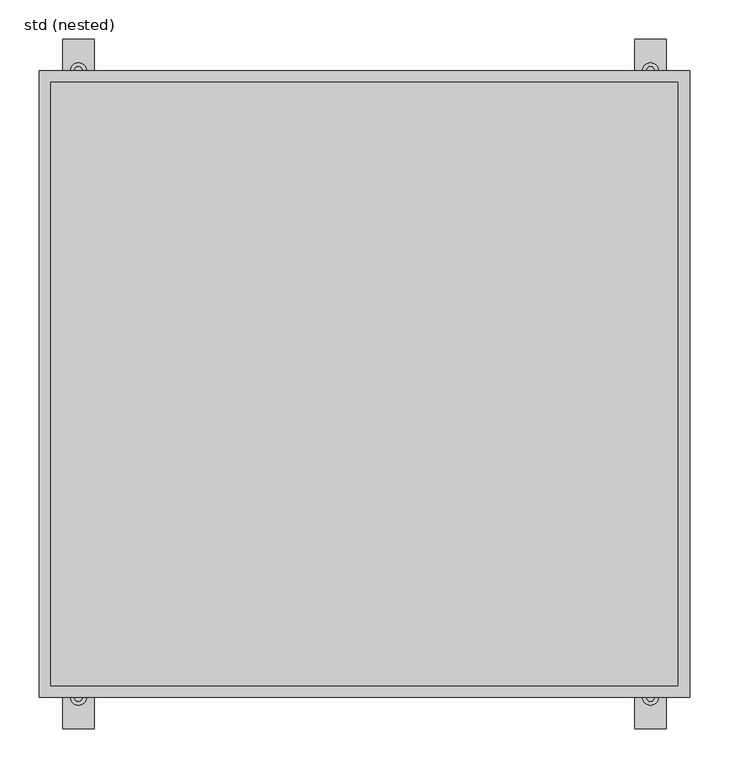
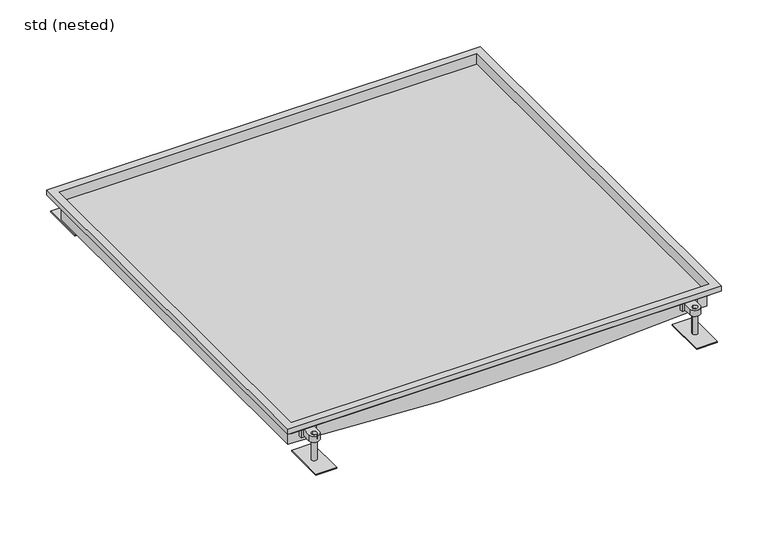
"""IFC4 building model written with IfcOpenShell, lengths in millimetres: sanitary terminal geometry, ZZZ_do not use_PF_ST_UN_custom hygienic box channel_ACO : std (nested)."""

import ifcopenshell
import ifcopenshell.guid

model = None  # the IFC model being written
_history = None  # IfcOwnerHistory: only IFC2X3 demands one
_inside = {}  # id of a spatial element -> (the spatial element, [elements in it])
_under = {}  # id of a project, library or spatial element -> (it, [spatial elements below it])
_declared = {}  # id of a project -> (the project, [libraries it declares])
_typed = {}  # id of a type object -> (the type object, [elements of that type])
_made_of = {}  # id of a material, layer set ... -> (it, [elements and type objects made of it])


def new_model(schema):
    """Start an empty IFC model of exactly this schema.

    Asked for "IFC4X3", IfcOpenShell would pick the latest addendum, in which some entities
    have other attributes; the version numbers below select the first issue.
    IFC2X3 requires an IfcOwnerHistory on every rooted entity: one is made here for all.
    """
    global model, _history
    if schema == "IFC4X3":
        model = ifcopenshell.file(schema_version=(4, 3, 0, 0))
    else:
        model = ifcopenshell.file(schema=schema)
    _inside.clear()
    _under.clear()
    _declared.clear()
    _typed.clear()
    _made_of.clear()
    _history = None
    if model.schema == "IFC2X3":
        org = make("IfcOrganization", Name="unknown")
        user = make(
            "IfcPersonAndOrganization",
            ThePerson=make("IfcPerson", FamilyName="unknown"),
            TheOrganization=org,
        )
        app = make(
            "IfcApplication",
            ApplicationDeveloper=org,
            Version="unknown",
            ApplicationFullName="unknown",
            ApplicationIdentifier="unknown",
        )
        _history = make(
            "IfcOwnerHistory",
            OwningUser=user,
            OwningApplication=app,
            ChangeAction="ADDED",
            CreationDate=0,
        )
    return model


def make(cls, **values):
    """One entity of the class cls with the attributes given. An attribute that is None is left unset."""
    return model.create_entity(
        cls, **{name: value for name, value in values.items() if value is not None}
    )


def rooted(cls, **values):
    """An entity with a GlobalId (a new one), such as an element, a storey or a relation."""
    return make(cls, GlobalId=ifcopenshell.guid.new(), OwnerHistory=_history, **values)


def si_unit(unit_type, name, prefix=None):
    """IfcSIUnit, for example si_unit("LENGTHUNIT", "METRE", prefix="MILLI")."""
    return make("IfcSIUnit", UnitType=unit_type, Prefix=prefix, Name=name)


def assignment(units):
    """IfcUnitAssignment: the units of a project."""
    return None if units is None else make("IfcUnitAssignment", Units=units)


def point(xyz):
    """IfcCartesianPoint."""
    return None if xyz is None else make("IfcCartesianPoint", Coordinates=xyz)


def direction(xyz):
    """IfcDirection."""
    return None if xyz is None else make("IfcDirection", DirectionRatios=xyz)


def frame(location, z_axis=None, x_axis=None):
    """IfcAxis2Placement3D, a coordinate frame: its origin and axes. An axis left out is left unset."""
    return make(
        "IfcAxis2Placement3D",
        Location=point(location),
        Axis=direction(z_axis),
        RefDirection=direction(x_axis),
    )


def frame_2d(location, x_axis=None):
    """IfcAxis2Placement2D, a coordinate frame in the plane: its origin and x axis."""
    return make(
        "IfcAxis2Placement2D", Location=point(location), RefDirection=direction(x_axis)
    )


def origin():
    """The frame at (0, 0, 0) with its axes left unset."""
    return frame((0.0, 0.0, 0.0))


def place(relative_to, where):
    """IfcLocalPlacement: puts the frame where relative to a parent placement (None: the world)."""
    return make(
        "IfcLocalPlacement", PlacementRelTo=relative_to, RelativePlacement=where
    )


def context(
    kind, dimensions, precision=None, world=None, true_north=None, identifier=None
):
    """IfcGeometricRepresentationContext, for example the 3D "Model" context."""
    return make(
        "IfcGeometricRepresentationContext",
        ContextIdentifier=identifier,
        ContextType=kind,
        CoordinateSpaceDimension=dimensions,
        Precision=precision,
        WorldCoordinateSystem=world,
        TrueNorth=true_north,
    )


def project(units=None, contexts=None):
    """IfcProject with its units and contexts."""
    return rooted(
        "IfcProject",
        Name="project",
        RepresentationContexts=contexts,
        UnitsInContext=assignment(units),
    )


def spatial(cls, under=None, at=None, **own):
    """A site, building, storey or space (cls), placed at a placement, below another one or the project."""
    s = rooted(cls, ObjectPlacement=at, **own)
    if under is not None:
        _under.setdefault(under.id(), (under, []))[1].append(s)
    return s


def polyline(points):
    """IfcPolyline through the points."""
    return make("IfcPolyline", Points=[point(p) for p in points])


def circle_curve(where, radius):
    """IfcCircle in the frame where."""
    return make("IfcCircle", Position=where, Radius=radius)


def trimmed(basis, trim1, trim2, sense, master):
    """IfcTrimmedCurve: the piece of a basis curve between two trims."""
    return make(
        "IfcTrimmedCurve",
        BasisCurve=basis,
        Trim1=trim1,
        Trim2=trim2,
        SenseAgreement=sense,
        MasterRepresentation=master,
    )


def segment(curve, same_sense, transition):
    """IfcCompositeCurveSegment."""
    return make(
        "IfcCompositeCurveSegment",
        Transition=transition,
        SameSense=same_sense,
        ParentCurve=curve,
    )


def composite_curve(segments, self_intersect=None):
    """IfcCompositeCurve: segments joined end to end."""
    return make("IfcCompositeCurve", Segments=segments, SelfIntersect=self_intersect)


def outline(outer, holes=None, kind="AREA"):
    """IfcArbitraryClosedProfileDef: a profile drawn as a closed curve; with holes, ...WithVoids."""
    if holes is None:
        return make("IfcArbitraryClosedProfileDef", ProfileType=kind, OuterCurve=outer)
    return make(
        "IfcArbitraryProfileDefWithVoids",
        ProfileType=kind,
        OuterCurve=outer,
        InnerCurves=holes,
    )


def extrude(swept, where, along, depth):
    """IfcExtrudedAreaSolid: the profile swept, set in the frame where, extruded along a direction by depth."""
    return make(
        "IfcExtrudedAreaSolid",
        SweptArea=swept,
        Position=where,
        ExtrudedDirection=direction(along),
        Depth=depth,
    )


def faces_of(points, faces, orient=None, outer=None):
    """IfcFace entities. A face is a list of loops; a loop is a list of indices into points, from 0.

    orient and outer hold one flag for each loop. By default every Orientation is true, the
    first loop of a face is its IfcFaceOuterBound and the others are IfcFaceBound.
    """
    made = []
    for i, loops in enumerate(faces):
        bounds = []
        for j, loop in enumerate(loops):
            is_outer = j == 0 if outer is None else outer[i][j]
            bounds.append(
                make(
                    "IfcFaceOuterBound" if is_outer else "IfcFaceBound",
                    Bound=make("IfcPolyLoop", Polygon=[points[k] for k in loop]),
                    Orientation=True if orient is None else orient[i][j],
                )
            )
        made.append(make("IfcFace", Bounds=bounds))
    return made


def faceted_brep(points, faces, orient=None, outer=None, voids=None):
    """IfcFacetedBrep: a solid bounded by flat faces; with voids (closed shells), ...WithVoids."""
    shared = [point(p) for p in points]
    hull = make("IfcClosedShell", CfsFaces=faces_of(shared, faces, orient, outer))
    if voids is None:
        return make("IfcFacetedBrep", Outer=hull)
    return make(
        "IfcFacetedBrepWithVoids",
        Outer=hull,
        Voids=[
            make(cls, CfsFaces=faces_of(shared, fs, o, b)) for cls, fs, o, b in voids
        ],
    )


def shape(context_of_items, identifier, shape_type, items):
    """IfcShapeRepresentation: the items that make up one representation, for example the "Body"."""
    return make(
        "IfcShapeRepresentation",
        ContextOfItems=context_of_items,
        RepresentationIdentifier=identifier,
        RepresentationType=shape_type,
        Items=items,
    )


def source(mapping_origin, context_of_items, identifier, shape_type, items):
    """IfcRepresentationMap: a shape defined once, which mapped items show again and again."""
    return make(
        "IfcRepresentationMap",
        MappingOrigin=mapping_origin,
        MappedRepresentation=shape(context_of_items, identifier, shape_type, items),
    )


def transform(
    local_origin,
    x_axis=None,
    y_axis=None,
    z_axis=None,
    scale=None,
    scale2=None,
    scale3=None,
    uniform=True,
):
    """IfcCartesianTransformationOperator3D, or its non-uniform kind. x_axis, y_axis, z_axis: its Axis1, 2, 3."""
    if uniform:
        return make(
            "IfcCartesianTransformationOperator3D",
            Axis1=direction(x_axis),
            Axis2=direction(y_axis),
            LocalOrigin=point(local_origin),
            Scale=scale,
            Axis3=direction(z_axis),
        )
    return make(
        "IfcCartesianTransformationOperator3DnonUniform",
        Axis1=direction(x_axis),
        Axis2=direction(y_axis),
        LocalOrigin=point(local_origin),
        Scale=scale,
        Axis3=direction(z_axis),
        Scale2=scale2,
        Scale3=scale3,
    )


def mapped(mapping_source, mapping_target):
    """IfcMappedItem: shows the shape of a source again, moved by a transform."""
    return make(
        "IfcMappedItem", MappingSource=mapping_source, MappingTarget=mapping_target
    )


def made_of(thing, what):
    """Note that an element or type object is made of a material, layer set ...; save() writes the relation."""
    if what is not None:
        _made_of.setdefault(what.id(), (what, []))[1].append(thing)
    return thing


def element(
    cls,
    number,
    at=None,
    inside=None,
    cuts=None,
    type_object=None,
    material=None,
    context=None,
    identifier="Body",
    shape_type=None,
    held_by="IfcProductDefinitionShape",
    body=None,
    shapes=None,
    **own,
):
    """One element of the class cls, such as IfcWall. Its Tag is "e" and its number.

    at: its placement. inside: the storey or other place that contains it. cuts: it is an
    opening in that element (IfcRelVoidsElement). A single representation is given by context,
    identifier, shape_type and body (its items); several are given by shapes. held_by: the class
    of the entity that holds the representations. save() writes the other relations.
    """
    e = rooted(cls, Tag="e%d" % number, ObjectPlacement=at, **own)
    if body is not None:
        shapes = [shape(context, identifier, shape_type, body)]
    if shapes is not None:
        e.Representation = make(held_by, Representations=shapes)
    if inside is not None:
        _inside.setdefault(inside.id(), (inside, []))[1].append(e)
    if cuts is not None:
        rooted(
            "IfcRelVoidsElement", RelatingBuildingElement=cuts, RelatedOpeningElement=e
        )
    if type_object is not None:
        _typed.setdefault(type_object.id(), (type_object, []))[1].append(e)
    return made_of(e, material)


def aggregate(whole, parts):
    """IfcRelAggregates: a whole, such as a stair, and the parts it consists of."""
    return rooted("IfcRelAggregates", RelatingObject=whole, RelatedObjects=parts)


def save(model, path):
    """Write the relations noted so far, then the file.

    IfcRelAggregates (storeys below a building ...), IfcRelContainedInSpatialStructure (elements
    in a storey), IfcRelDefinesByType, IfcRelAssociatesMaterial and IfcRelDeclares: one each for
    every whole, place, type object, material and project.
    """
    for whole, parts in _under.values():
        aggregate(whole, parts)
    for where, things in _inside.values():
        rooted(
            "IfcRelContainedInSpatialStructure",
            RelatedElements=things,
            RelatingStructure=where,
        )
    for kind, things in _typed.values():
        rooted("IfcRelDefinesByType", RelatedObjects=things, RelatingType=kind)
    for what, things in _made_of.values():
        rooted("IfcRelAssociatesMaterial", RelatedObjects=things, RelatingMaterial=what)
    for by, libraries in _declared.values():
        rooted("IfcRelDeclares", RelatingContext=by, RelatedDefinitions=libraries)
    model.write(path)


def plane_surface(at):
    """IfcPlane: the flat surface through the origin of the frame at, square to its z axis."""
    return make("IfcPlane", Position=at)


def cylinder_surface(at, radius):
    """IfcCylindricalSurface: all points at the distance radius from the z axis of the frame at."""
    return make("IfcCylindricalSurface", Position=at, Radius=radius)


def advanced_brep(points, edges, surfaces, faces):
    """IfcAdvancedBrep: a solid bounded by faces that lie on surfaces and meet in shared edges.

    An edge is (start, end): straight between two places in points (the first is 0);
    or (start, end, curve); or (start, end, curve, False) where it runs against its curve.
    A face is (place in surfaces, loops), or (place, loops, False) where it looks against
    its surface's normal. A loop lists edges by number (the first is 1), with a minus sign
    where the edge is run from its end to its start. The first loop is the outer one.
    """
    corners = [point(p) for p in points]
    vertices = [make("IfcVertexPoint", VertexGeometry=c) for c in corners]
    made = []
    for start, end, *more in edges:
        made.append(
            make(
                "IfcEdgeCurve",
                EdgeStart=vertices[start],
                EdgeEnd=vertices[end],
                EdgeGeometry=more[0] if more else make("IfcPolyline", Points=[corners[start], corners[end]]),
                SameSense=more[1] if len(more) > 1 else True,
            )
        )
    hull = []
    for where, loops, *sense in faces:
        bounds = []
        for j, loop in enumerate(loops):
            ring = [make("IfcOrientedEdge", EdgeElement=made[abs(k) - 1], Orientation=k > 0) for k in loop]
            bounds.append(
                make(
                    "IfcFaceOuterBound" if j == 0 else "IfcFaceBound",
                    Bound=make("IfcEdgeLoop", EdgeList=ring),
                    Orientation=True,
                )
            )
        hull.append(make("IfcAdvancedFace", Bounds=bounds, FaceSurface=surfaces[where], SameSense=sense[0] if sense else True))
    return make("IfcAdvancedBrep", Outer=make("IfcClosedShell", CfsFaces=hull))


def std_nested_4a2af299(model_context):
    return source(origin(), model_context, "Body", "SolidModel", [
        extrude(outline(composite_curve([segment(polyline([(375.0, 382.5), (355.0, 382.5), (355.0, 400.0)]), True, "CONTINUOUS"), segment(trimmed(circle_curve(frame_2d((365.0, 400.0)), 10.0), [point((355.0, 400.0))], [point((375.0, 400.0))], False, "CARTESIAN"), True, "CONTINUOUS"), segment(polyline([(375.0, 400.0), (375.0, 382.5)]), True, "CONTINUOUS")], self_intersect=False), holes=[composite_curve([segment(trimmed(circle_curve(frame_2d((365.0, 400.0)), 5.0), [point((365.0, 395.0))], [point((365.0, 405.0))], True, "CARTESIAN"), True, "CONTINUOUS"), segment(trimmed(circle_curve(frame_2d((365.0, 400.0)), 5.0), [point((365.0, 405.0))], [point((365.0, 395.0))], True, "CARTESIAN"), True, "CONTINUOUS")], self_intersect=False)]), frame((0.0, 0.0, -37.0), z_axis=(0.0, 0.0, 1.0), x_axis=(1.0, 0.0, 0.0)), (0.0, 0.0, 1.0), 12.0),
        advanced_brep(
        [(360.0, 400.0, -31.0), (370.0, 400.0, -31.0), (385.0, 360.0, -79.5), (345.0, 360.0, -79.5), (345.0, 440.0, -79.5), (385.0, 440.0, -79.5), (370.0, 400.0, -77.5), (360.0, 400.0, -77.5), (385.0, 360.0, -77.5), (385.0, 440.0, -77.5), (345.0, 440.0, -77.5), (345.0, 360.0, -77.5)],
        [
            (0, 1, circle_curve(frame((365.0, 400.0, -31.0), z_axis=(0.0, 0.0, 1.0), x_axis=(1.0, 0.0, 0.0)), 5.0)),
            (1, 0, circle_curve(frame((365.0, 400.0, -31.0), z_axis=(0.0, 0.0, 1.0), x_axis=(1.0, 0.0, 0.0)), 5.0)),
            (2, 3),
            (3, 4),
            (4, 5),
            (5, 2),
            (1, 6),
            (6, 7, circle_curve(frame((365.0, 400.0, -77.5), z_axis=(0.0, 0.0, 1.0), x_axis=(1.0, 0.0, 0.0)), 5.0)),
            (7, 0),
            (7, 6, circle_curve(frame((365.0, 400.0, -77.5), z_axis=(0.0, 0.0, 1.0), x_axis=(1.0, 0.0, 0.0)), 5.0)),
            (8, 9),
            (9, 10),
            (10, 11),
            (11, 8),
            (11, 3),
            (2, 8),
            (10, 4),
            (9, 5),
        ],
        [
            plane_surface(frame((370.0, 400.0, -31.0), z_axis=(0.0, 0.0, 1.0), x_axis=(0.0, -1.0, 0.0))),
            plane_surface(frame((370.0, 400.0, -79.5), z_axis=(0.0, 0.0, -1.0), x_axis=(0.0, 1.0, 0.0))),
            cylinder_surface(frame((365.0, 400.0, -79.5), z_axis=(0.0, 0.0, 1.0), x_axis=(1.0, 0.0, 0.0)), 5.0),
            plane_surface(frame((345.0, 360.0, -77.5), z_axis=(0.0, 0.0, 1.0), x_axis=(-1.0, 0.0, 0.0))),
            plane_surface(frame((385.0, 360.0, -77.5), z_axis=(0.0, -1.0, 0.0), x_axis=(0.0, 0.0, -1.0))),
            plane_surface(frame((345.0, 360.0, -77.5), z_axis=(-1.0, 0.0, 0.0), x_axis=(0.0, 0.0, -1.0))),
            plane_surface(frame((345.0, 440.0, -77.5), z_axis=(0.0, 1.0, 0.0), x_axis=(0.0, 0.0, -1.0))),
            plane_surface(frame((385.0, 440.0, -77.5), z_axis=(1.0, 0.0, 0.0), x_axis=(0.0, 0.0, -1.0))),
        ],
        [
            (0, [[1, 2]]),
            (1, [[3, 4, 5, 6]]),
            (2, [[7, 8, 9, -2]]),
            (2, [[-9, 10, -7, -1]]),
            (3, [[11, 12, 13, 14], [-10, -8]]),
            (4, [[15, -3, 16, -14]]),
            (5, [[17, -4, -15, -13]]),
            (6, [[18, -5, -17, -12]]),
            (7, [[-16, -6, -18, -11]]),
        ],
    ),
        extrude(outline(polyline([(379.35, 374.5), (350.65, 374.5), (350.65, 382.5), (379.35, 382.5), (379.35, 374.5)])), frame((0.0, 0.0, -40.0), z_axis=(0.0, 0.0, 1.0), x_axis=(1.0, 0.0, 0.0)), (0.0, 0.0, 1.0), 18.0),
        extrude(outline(composite_curve([segment(polyline([(375.0, -382.5), (375.0, -400.0)]), True, "CONTINUOUS"), segment(trimmed(circle_curve(frame_2d((365.0, -400.0)), 10.0), [point((375.0, -400.0))], [point((355.0, -400.0))], False, "CARTESIAN"), True, "CONTINUOUS"), segment(polyline([(355.0, -400.0), (355.0, -382.5), (375.0, -382.5)]), True, "CONTINUOUS")], self_intersect=False), holes=[composite_curve([segment(trimmed(circle_curve(frame_2d((365.0, -400.0)), 5.0), [point((365.0, -395.0))], [point((365.0, -405.0))], True, "CARTESIAN"), True, "CONTINUOUS"), segment(trimmed(circle_curve(frame_2d((365.0, -400.0)), 5.0), [point((365.0, -405.0))], [point((365.0, -395.0))], True, "CARTESIAN"), True, "CONTINUOUS")], self_intersect=False)]), frame((0.0, 0.0, -37.0), z_axis=(0.0, 0.0, 1.0), x_axis=(1.0, 0.0, 0.0)), (0.0, 0.0, 1.0), 12.0),
        advanced_brep(
        [(360.0, -400.0, -31.0), (370.0, -400.0, -31.0), (385.0, -360.0, -79.5), (385.0, -440.0, -79.5), (345.0, -440.0, -79.5), (345.0, -360.0, -79.5), (360.0, -400.0, -77.5), (370.0, -400.0, -77.5), (385.0, -360.0, -77.5), (345.0, -360.0, -77.5), (345.0, -440.0, -77.5), (385.0, -440.0, -77.5)],
        [
            (0, 1, circle_curve(frame((365.0, -400.0, -31.0), z_axis=(0.0, 0.0, 1.0), x_axis=(1.0, 0.0, 0.0)), 5.0)),
            (1, 0, circle_curve(frame((365.0, -400.0, -31.0), z_axis=(0.0, 0.0, 1.0), x_axis=(1.0, 0.0, 0.0)), 5.0)),
            (2, 3),
            (3, 4),
            (4, 5),
            (5, 2),
            (0, 6),
            (6, 7, circle_curve(frame((365.0, -400.0, -77.5), z_axis=(0.0, 0.0, 1.0), x_axis=(1.0, 0.0, 0.0)), 5.0)),
            (7, 1),
            (7, 6, circle_curve(frame((365.0, -400.0, -77.5), z_axis=(0.0, 0.0, 1.0), x_axis=(1.0, 0.0, 0.0)), 5.0)),
            (8, 9),
            (9, 10),
            (10, 11),
            (11, 8),
            (8, 2),
            (5, 9),
            (4, 10),
            (3, 11),
        ],
        [
            plane_surface(frame((370.0, -400.0, -31.0), z_axis=(0.0, 0.0, 1.0), x_axis=(0.0, 1.0, 0.0))),
            plane_surface(frame((370.0, -400.0, -79.5), z_axis=(0.0, 0.0, -1.0), x_axis=(0.0, -1.0, 0.0))),
            cylinder_surface(frame((365.0, -400.0, -79.5), z_axis=(0.0, 0.0, 1.0), x_axis=(1.0, 0.0, 0.0)), 5.0),
            plane_surface(frame((345.0, -360.0, -77.5), z_axis=(0.0, 0.0, 1.0), x_axis=(-1.0, 0.0, 0.0))),
            plane_surface(frame((385.0, -360.0, -77.5), z_axis=(0.0, 1.0, 0.0), x_axis=(0.0, 0.0, -1.0))),
            plane_surface(frame((345.0, -360.0, -77.5), z_axis=(-1.0, 0.0, 0.0), x_axis=(0.0, 0.0, -1.0))),
            plane_surface(frame((345.0, -440.0, -77.5), z_axis=(0.0, -1.0, 0.0), x_axis=(0.0, 0.0, -1.0))),
            plane_surface(frame((385.0, -440.0, -77.5), z_axis=(1.0, 0.0, 0.0), x_axis=(0.0, 0.0, -1.0))),
        ],
        [
            (0, [[1, 2]]),
            (1, [[3, 4, 5, 6]]),
            (2, [[-1, 7, 8, 9]]),
            (2, [[-2, -9, 10, -7]]),
            (3, [[11, 12, 13, 14], [-8, -10]]),
            (4, [[-11, 15, -6, 16]]),
            (5, [[-12, -16, -5, 17]]),
            (6, [[-13, -17, -4, 18]]),
            (7, [[-14, -18, -3, -15]]),
        ],
    ),
        extrude(outline(polyline([(379.35, -374.5), (379.35, -382.5), (350.65, -382.5), (350.65, -374.5), (379.35, -374.5)])), frame((0.0, 0.0, -40.0), z_axis=(0.0, 0.0, 1.0), x_axis=(1.0, 0.0, 0.0)), (0.0, 0.0, 1.0), 18.0),
        extrude(outline(composite_curve([segment(polyline([(-355.0, 382.5), (-375.0, 382.5), (-375.0, 400.0)]), True, "CONTINUOUS"), segment(trimmed(circle_curve(frame_2d((-365.0, 400.0)), 10.0), [point((-375.0, 400.0))], [point((-355.0, 400.0))], False, "CARTESIAN"), True, "CONTINUOUS"), segment(polyline([(-355.0, 400.0), (-355.0, 382.5)]), True, "CONTINUOUS")], self_intersect=False), holes=[composite_curve([segment(trimmed(circle_curve(frame_2d((-365.0, 400.0)), 5.0), [point((-365.0, 395.0))], [point((-365.0, 405.0))], True, "CARTESIAN"), True, "CONTINUOUS"), segment(trimmed(circle_curve(frame_2d((-365.0, 400.0)), 5.0), [point((-365.0, 405.0))], [point((-365.0, 395.0))], True, "CARTESIAN"), True, "CONTINUOUS")], self_intersect=False)]), frame((0.0, 0.0, -37.0), z_axis=(0.0, 0.0, 1.0), x_axis=(1.0, 0.0, 0.0)), (0.0, 0.0, 1.0), 12.0),
        advanced_brep(
        [(-370.0, 400.0, -31.0), (-360.0, 400.0, -31.0), (-345.0, 360.0, -79.5), (-385.0, 360.0, -79.5), (-385.0, 440.0, -79.5), (-345.0, 440.0, -79.5), (-360.0, 400.0, -77.5), (-370.0, 400.0, -77.5), (-345.0, 360.0, -77.5), (-345.0, 440.0, -77.5), (-385.0, 440.0, -77.5), (-385.0, 360.0, -77.5)],
        [
            (0, 1, circle_curve(frame((-365.0, 400.0, -31.0), z_axis=(0.0, 0.0, 1.0), x_axis=(1.0, 0.0, 0.0)), 5.0)),
            (1, 0, circle_curve(frame((-365.0, 400.0, -31.0), z_axis=(0.0, 0.0, 1.0), x_axis=(1.0, 0.0, 0.0)), 5.0)),
            (2, 3),
            (3, 4),
            (4, 5),
            (5, 2),
            (1, 6),
            (6, 7, circle_curve(frame((-365.0, 400.0, -77.5), z_axis=(0.0, 0.0, 1.0), x_axis=(1.0, 0.0, 0.0)), 5.0)),
            (7, 0),
            (7, 6, circle_curve(frame((-365.0, 400.0, -77.5), z_axis=(0.0, 0.0, 1.0), x_axis=(1.0, 0.0, 0.0)), 5.0)),
            (8, 9),
            (9, 10),
            (10, 11),
            (11, 8),
            (11, 3),
            (2, 8),
            (10, 4),
            (9, 5),
        ],
        [
            plane_surface(frame((-360.0, 400.0, -31.0), z_axis=(0.0, 0.0, 1.0), x_axis=(0.0, -1.0, 0.0))),
            plane_surface(frame((-360.0, 400.0, -79.5), z_axis=(0.0, 0.0, -1.0), x_axis=(0.0, 1.0, 0.0))),
            cylinder_surface(frame((-365.0, 400.0, -79.5), z_axis=(0.0, 0.0, 1.0), x_axis=(1.0, 0.0, 0.0)), 5.0),
            plane_surface(frame((-385.0, 360.0, -77.5), z_axis=(0.0, 0.0, 1.0), x_axis=(-1.0, 0.0, 0.0))),
            plane_surface(frame((-345.0, 360.0, -77.5), z_axis=(0.0, -1.0, 0.0), x_axis=(0.0, 0.0, -1.0))),
            plane_surface(frame((-385.0, 360.0, -77.5), z_axis=(-1.0, 0.0, 0.0), x_axis=(0.0, 0.0, -1.0))),
            plane_surface(frame((-385.0, 440.0, -77.5), z_axis=(0.0, 1.0, 0.0), x_axis=(0.0, 0.0, -1.0))),
            plane_surface(frame((-345.0, 440.0, -77.5), z_axis=(1.0, 0.0, 0.0), x_axis=(0.0, 0.0, -1.0))),
        ],
        [
            (0, [[1, 2]]),
            (1, [[3, 4, 5, 6]]),
            (2, [[7, 8, 9, -2]]),
            (2, [[-9, 10, -7, -1]]),
            (3, [[11, 12, 13, 14], [-10, -8]]),
            (4, [[15, -3, 16, -14]]),
            (5, [[17, -4, -15, -13]]),
            (6, [[18, -5, -17, -12]]),
            (7, [[-16, -6, -18, -11]]),
        ],
    ),
        extrude(outline(polyline([(-350.65, 374.5), (-379.35, 374.5), (-379.35, 382.5), (-350.65, 382.5), (-350.65, 374.5)])), frame((0.0, 0.0, -40.0), z_axis=(0.0, 0.0, 1.0), x_axis=(1.0, 0.0, 0.0)), (0.0, 0.0, 1.0), 18.0),
        extrude(outline(composite_curve([segment(polyline([(-355.0, -382.5), (-355.0, -400.0)]), True, "CONTINUOUS"), segment(trimmed(circle_curve(frame_2d((-365.0, -400.0)), 10.0), [point((-355.0, -400.0))], [point((-375.0, -400.0))], False, "CARTESIAN"), True, "CONTINUOUS"), segment(polyline([(-375.0, -400.0), (-375.0, -382.5), (-355.0, -382.5)]), True, "CONTINUOUS")], self_intersect=False), holes=[composite_curve([segment(trimmed(circle_curve(frame_2d((-365.0, -400.0)), 5.0), [point((-365.0, -395.0))], [point((-365.0, -405.0))], True, "CARTESIAN"), True, "CONTINUOUS"), segment(trimmed(circle_curve(frame_2d((-365.0, -400.0)), 5.0), [point((-365.0, -405.0))], [point((-365.0, -395.0))], True, "CARTESIAN"), True, "CONTINUOUS")], self_intersect=False)]), frame((0.0, 0.0, -37.0), z_axis=(0.0, 0.0, 1.0), x_axis=(1.0, 0.0, 0.0)), (0.0, 0.0, 1.0), 12.0),
        advanced_brep(
        [(-370.0, -400.0, -31.0), (-360.0, -400.0, -31.0), (-345.0, -360.0, -79.5), (-345.0, -440.0, -79.5), (-385.0, -440.0, -79.5), (-385.0, -360.0, -79.5), (-370.0, -400.0, -77.5), (-360.0, -400.0, -77.5), (-345.0, -360.0, -77.5), (-385.0, -360.0, -77.5), (-385.0, -440.0, -77.5), (-345.0, -440.0, -77.5)],
        [
            (0, 1, circle_curve(frame((-365.0, -400.0, -31.0), z_axis=(0.0, 0.0, 1.0), x_axis=(1.0, 0.0, 0.0)), 5.0)),
            (1, 0, circle_curve(frame((-365.0, -400.0, -31.0), z_axis=(0.0, 0.0, 1.0), x_axis=(1.0, 0.0, 0.0)), 5.0)),
            (2, 3),
            (3, 4),
            (4, 5),
            (5, 2),
            (0, 6),
            (6, 7, circle_curve(frame((-365.0, -400.0, -77.5), z_axis=(0.0, 0.0, 1.0), x_axis=(1.0, 0.0, 0.0)), 5.0)),
            (7, 1),
            (7, 6, circle_curve(frame((-365.0, -400.0, -77.5), z_axis=(0.0, 0.0, 1.0), x_axis=(1.0, 0.0, 0.0)), 5.0)),
            (8, 9),
            (9, 10),
            (10, 11),
            (11, 8),
            (8, 2),
            (5, 9),
            (4, 10),
            (3, 11),
        ],
        [
            plane_surface(frame((-360.0, -400.0, -31.0), z_axis=(0.0, 0.0, 1.0), x_axis=(0.0, 1.0, 0.0))),
            plane_surface(frame((-360.0, -400.0, -79.5), z_axis=(0.0, 0.0, -1.0), x_axis=(0.0, -1.0, 0.0))),
            cylinder_surface(frame((-365.0, -400.0, -79.5), z_axis=(0.0, 0.0, 1.0), x_axis=(1.0, 0.0, 0.0)), 5.0),
            plane_surface(frame((-385.0, -360.0, -77.5), z_axis=(0.0, 0.0, 1.0), x_axis=(-1.0, 0.0, 0.0))),
            plane_surface(frame((-345.0, -360.0, -77.5), z_axis=(0.0, 1.0, 0.0), x_axis=(0.0, 0.0, -1.0))),
            plane_surface(frame((-385.0, -360.0, -77.5), z_axis=(-1.0, 0.0, 0.0), x_axis=(0.0, 0.0, -1.0))),
            plane_surface(frame((-385.0, -440.0, -77.5), z_axis=(0.0, -1.0, 0.0), x_axis=(0.0, 0.0, -1.0))),
            plane_surface(frame((-345.0, -440.0, -77.5), z_axis=(1.0, 0.0, 0.0), x_axis=(0.0, 0.0, -1.0))),
        ],
        [
            (0, [[1, 2]]),
            (1, [[3, 4, 5, 6]]),
            (2, [[-1, 7, 8, 9]]),
            (2, [[-2, -9, 10, -7]]),
            (3, [[11, 12, 13, 14], [-8, -10]]),
            (4, [[-11, 15, -6, 16]]),
            (5, [[-12, -16, -5, 17]]),
            (6, [[-13, -17, -4, 18]]),
            (7, [[-14, -18, -3, -15]]),
        ],
    ),
        extrude(outline(polyline([(-350.65, -374.5), (-350.65, -382.5), (-379.35, -382.5), (-379.35, -374.5), (-350.65, -374.5)])), frame((0.0, 0.0, -40.0), z_axis=(0.0, 0.0, 1.0), x_axis=(1.0, 0.0, 0.0)), (0.0, 0.0, 1.0), 18.0),
        faceted_brep([(-400.0, 385.0, -22.0), (-400.0, 385.0, -20.5), (400.0, 385.0, -20.5), (400.0, 385.0, -22.0), (-400.0, -385.0, -20.5), (400.0, -385.0, -20.5), (-400.0, -385.0, -22.0), (400.0, -385.0, -22.0), (-400.0, -376.0, -22.0), (400.0, -376.0, -22.0), (400.0, 376.0, -22.0), (-400.0, 376.0, -22.0), (113.0, -376.0, -65.0), (386.5, -376.0, -50.0), (401.5, -376.0, -50.0), (401.5, -376.0, -22.0), (-401.5, -376.0, -22.0), (-401.5, -376.0, -50.0), (-386.5, -376.0, -50.0), (-113.0, -376.0, -65.0), (113.0, 376.0, -65.0), (386.5, 376.0, -50.0), (-113.0, 376.0, -65.0), (-386.5, 376.0, -50.0), (-401.5, 376.0, -50.0), (-401.5, 376.0, -22.0), (401.5, 376.0, -22.0), (401.5, 376.0, -50.0)], [[[0, 1, 2, 3]], [[1, 4, 5, 2]], [[4, 6, 7, 5]], [[6, 8, 9, 7]], [[10, 11, 0, 3]], [[12, 13, 14, 15, 9, 8, 16, 17, 18, 19]], [[13, 12, 20, 21]], [[21, 20, 22, 23, 24, 25, 11, 10, 26, 27]], [[22, 20, 12, 19]], [[19, 18, 23, 22]], [[24, 17, 16, 25]], [[25, 16, 8, 11]], [[17, 24, 23, 18]], [[4, 1, 0, 11, 8, 6]], [[5, 7, 9, 10, 3, 2]], [[26, 15, 14, 27]], [[15, 26, 10, 9]], [[27, 14, 13, 21]]]),
        advanced_brep(
        [(-100.0, 0.0, -141.5), (100.0, 0.0, -141.5), (0.0, 0.0, -141.5), (-100.0, 0.0, -80.0), (100.0, 0.0, -80.0), (-113.0, 0.0, -80.0), (113.0, 0.0, -80.0), (-113.0, 0.0, -65.0), (113.0, 0.0, -65.0), (0.0, 0.0, -65.0)],
        [
            (0, 1, circle_curve(frame((0.0, 0.0, -141.5), z_axis=(0.0, 0.0, -1.0), x_axis=(1.0, 0.0, 0.0)), 100.0)),
            (1, 2),
            (2, 0),
            (1, 0, circle_curve(frame((0.0, 0.0, -141.5), z_axis=(0.0, 0.0, -1.0), x_axis=(1.0, 0.0, 0.0)), 100.0)),
            (3, 4, circle_curve(frame((0.0, 0.0, -80.0), z_axis=(0.0, 0.0, -1.0), x_axis=(1.0, 0.0, 0.0)), 100.0)),
            (4, 1),
            (0, 3),
            (4, 3, circle_curve(frame((0.0, 0.0, -80.0), z_axis=(0.0, 0.0, -1.0), x_axis=(1.0, 0.0, 0.0)), 100.0)),
            (5, 6, circle_curve(frame((0.0, 0.0, -80.0), z_axis=(0.0, 0.0, -1.0), x_axis=(1.0, 0.0, 0.0)), 113.0)),
            (6, 4),
            (3, 5),
            (6, 5, circle_curve(frame((0.0, 0.0, -80.0), z_axis=(0.0, 0.0, -1.0), x_axis=(1.0, 0.0, 0.0)), 113.0)),
            (7, 8, circle_curve(frame((0.0, 0.0, -65.0), z_axis=(0.0, 0.0, -1.0), x_axis=(1.0, 0.0, 0.0)), 113.0)),
            (8, 6),
            (5, 7),
            (8, 7, circle_curve(frame((0.0, 0.0, -65.0), z_axis=(0.0, 0.0, -1.0), x_axis=(1.0, 0.0, 0.0)), 113.0)),
            (9, 8),
            (7, 9),
        ],
        [
            plane_surface(frame((0.0, 0.0, -141.5), z_axis=(0.0, 0.0, -1.0), x_axis=(1.0, 0.0, 0.0))),
            cylinder_surface(frame((0.0, 0.0, -150.0), z_axis=(0.0, 0.0, 1.0), x_axis=(1.0, 0.0, 0.0)), 100.0),
            plane_surface(frame((0.0, 0.0, -80.0), z_axis=(0.0, 0.0, -1.0), x_axis=(1.0, 0.0, 0.0))),
            cylinder_surface(frame((0.0, 0.0, -150.0), z_axis=(0.0, 0.0, 1.0), x_axis=(1.0, 0.0, 0.0)), 113.0),
            plane_surface(frame((0.0, 0.0, -65.0), z_axis=(0.0, 0.0, 1.0), x_axis=(1.0, 0.0, 0.0))),
        ],
        [
            (0, [[1, 2, 3]]),
            (0, [[4, -3, -2]]),
            (1, [[5, 6, -1, 7]]),
            (1, [[8, -7, -4, -6]]),
            (2, [[9, 10, -5, 11]]),
            (2, [[12, -11, -8, -10]]),
            (3, [[13, 14, -9, 15]]),
            (3, [[16, -15, -12, -14]]),
            (4, [[17, -13, 18]]),
            (4, [[-18, -16, -17]]),
        ],
    ),
        faceted_brep([(415.0, 400.0, -10.0), (415.0, 400.0, 0.0), (415.0, -400.0, 0.0), (415.0, -400.0, -10.0), (401.5, 386.5, -22.0), (401.5, 386.5, -1.5), (401.5, -386.5, -1.5), (401.5, -386.5, -22.0), (400.0, 385.0, 0.0), (400.0, 385.0, -22.0), (400.0, -385.0, -22.0), (400.0, -385.0, 0.0), (-415.0, -400.0, 0.0), (-415.0, -400.0, -10.0), (-401.5, -386.5, -1.5), (-401.5, -386.5, -22.0), (-400.0, -385.0, -22.0), (-400.0, -385.0, 0.0), (-415.0, 400.0, 0.0), (-415.0, 400.0, -10.0), (-401.5, 386.5, -1.5), (-401.5, 386.5, -22.0), (-400.0, 385.0, -22.0), (-400.0, 385.0, 0.0), (413.5, 398.5, -10.0), (-413.5, 398.5, -10.0), (-413.5, -398.5, -10.0), (413.5, -398.5, -10.0), (413.5, 398.5, -1.5), (413.5, -398.5, -1.5), (-413.5, -398.5, -1.5), (-413.5, 398.5, -1.5)], [[[0, 1, 2, 3]], [[4, 5, 6, 7]], [[8, 9, 10, 11]], [[3, 2, 12, 13]], [[7, 6, 14, 15]], [[11, 10, 16, 17]], [[13, 12, 18, 19]], [[15, 14, 20, 21]], [[17, 16, 22, 23]], [[19, 18, 1, 0]], [[3, 13, 19, 0], [24, 25, 26, 27]], [[21, 20, 5, 4]], [[7, 15, 21, 4], [9, 22, 16, 10]], [[23, 22, 9, 8]], [[1, 18, 12, 2], [11, 17, 23, 8]], [[28, 24, 27, 29]], [[29, 27, 26, 30]], [[30, 26, 25, 31]], [[31, 25, 24, 28]], [[29, 30, 31, 28], [5, 20, 14, 6]]]),
    ])


if __name__ == "__main__":
    model = new_model("IFC4")
    model_context = context("Model", 3, world=origin())
    ifc_project = project(units=[si_unit("LENGTHUNIT", "METRE", prefix="MILLI")], contexts=[model_context])
    site = spatial("IfcSite", under=ifc_project)
    building = spatial("IfcBuilding", under=site)
    placement = place(None, origin())
    std_nested_shape = std_nested_4a2af299(model_context)
    element("IfcSanitaryTerminal", 1, ObjectType="ZZZ_do not use_PF_ST_UN_custom hygienic box channel_ACO : std (nested)", at=placement, inside=building, context=model_context, shape_type="MappedRepresentation", body=[
        mapped(std_nested_shape, transform((0.0, 0.0, 0.0), x_axis=(1.0, 0.0, 0.0), y_axis=(0.0, 1.0, 0.0), z_axis=(0.0, 0.0, 1.0))),
    ])
    save(model, "model.ifc")
